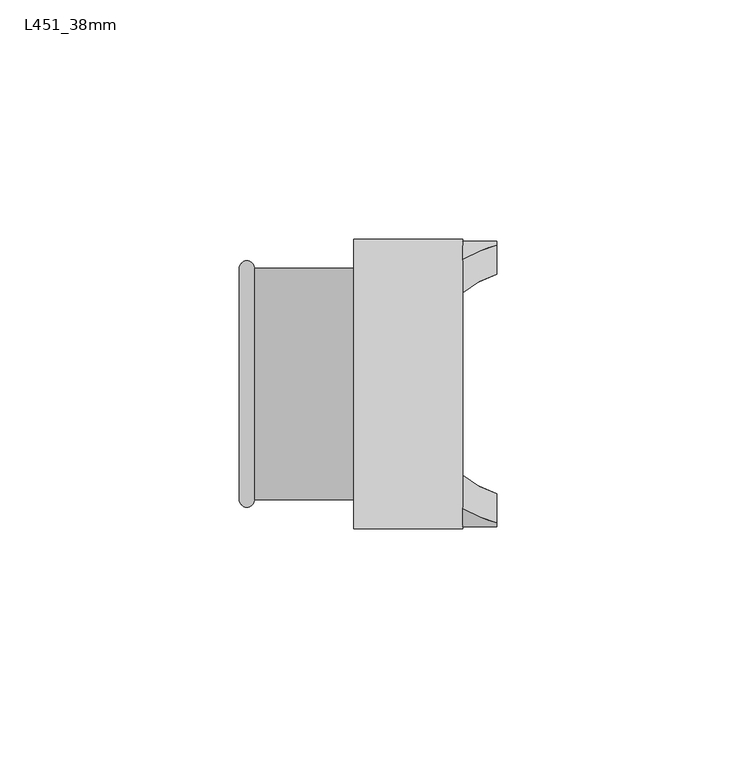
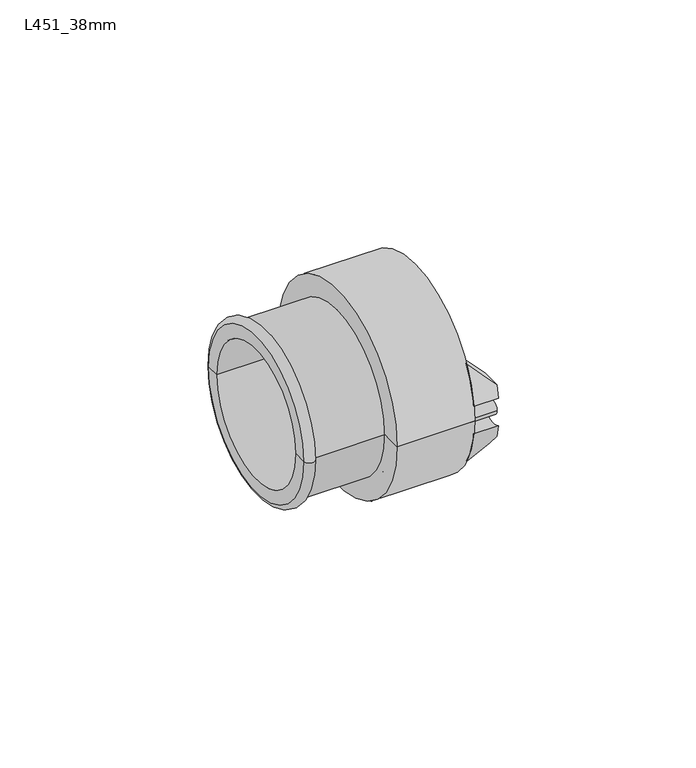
"""IFC4 building model written with IfcOpenShell, lengths in millimetres: pipe fitting geometry, Durapipe_PipeFitting_VulcatheneEnfusion_GlassAdaptor_L45 : L451_38mm."""

from ifc_helpers import new_model, si_unit, point, frame, frame_2d, origin, place, context, project, spatial, polyline, circle_curve, ellipse_curve, trimmed, segment, composite_curve, outline, extrude, source, transform, mapped, element, save
from ifc_brep_helpers import plane_surface, cylinder_surface, revolved_surface, advanced_brep


def l451_38mm_612f0f0e(model_context):
    return source(origin(), model_context, "Body", "SolidModel", [
        advanced_brep(
        [(30.45, -23.9950368, -3.8377351), (30.45, -29.7950368, -4.2738489), (30.45, -29.0338837, -7.94), (30.45, -22.9662013, -7.94), (23.35, -26.0961683, -15.0), (23.35, -29.7950368, -4.2738489), (23.35, -23.9950368, -3.8377351), (23.35, -19.1177928, -15.0)],
        [
            (0, 1, circle_curve(frame((30.45, -27.2, 0.0), z_axis=(-1.0, 0.0, 0.0), x_axis=(0.0, 1.0, 0.0)), 5.0)),
            (1, 2, circle_curve(frame((30.45, 0.0, 0.0), z_axis=(1.0, 0.0, 0.0), x_axis=(0.0, 1.0, 0.0)), 30.1)),
            (2, 3),
            (3, 0, circle_curve(frame((30.45, 0.0, 0.0), z_axis=(-1.0, 0.0, 0.0), x_axis=(0.0, 1.0, 0.0)), 24.3)),
            (4, 5, circle_curve(frame((23.35, 0.0, 0.0), z_axis=(-1.0, 0.0, 0.0), x_axis=(0.0, 1.0, 0.0)), 30.1)),
            (5, 6, circle_curve(frame((23.35, -27.2, 0.0), z_axis=(1.0, 0.0, 0.0), x_axis=(0.0, 1.0, 0.0)), 5.0)),
            (6, 7, circle_curve(frame((23.35, 0.0, 0.0), z_axis=(1.0, 0.0, 0.0), x_axis=(0.0, 1.0, 0.0)), 24.3)),
            (7, 4),
            (6, 0),
            (3, 7, ellipse_curve(frame((38.4349858, 0.0, 0.0), z_axis=(0.705106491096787, 0.0, -0.7091014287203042), x_axis=(-0.7091014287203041, 0.0, -0.705106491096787)), 34.4628794, 24.3)),
            (4, 2, ellipse_curve(frame((38.4349858, 0.0, 0.0), z_axis=(-0.705106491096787, 0.0, 0.7091014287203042), x_axis=(0.7091014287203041, 0.0, 0.705106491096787)), 42.6885873, 30.1)),
            (1, 5),
        ],
        [
            plane_surface(frame((30.45, -26.0961683, -15.0), z_axis=(1.0, 0.0, 0.0), x_axis=(0.0, 1.0, 0.0))),
            plane_surface(frame((23.35, -26.0961683, -15.0), z_axis=(-1.0, 0.0, 0.0), x_axis=(0.0, -1.0, 0.0))),
            revolved_surface(polyline([(13.997308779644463, 24.3, 0.0), (62.872662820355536, 24.3, 0.0)]), (23.35, 0.0, 0.0), (-1.0, 0.0, 0.0)),
            cylinder_surface(frame((23.35, 0.0, 0.0), z_axis=(1.0, 0.0, 0.0), x_axis=(0.0, 1.0, 0.0)), 30.1),
            revolved_surface(polyline([(30.45, -22.2, 0.0), (23.35, -22.2, 0.0)]), (23.35, -27.2, 0.0), (1.0, 0.0, 0.0)),
            plane_surface(frame((23.35, 30.1, -15.0), z_axis=(0.705106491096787, 0.0, -0.7091014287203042), x_axis=(0.0, -1.0, 0.0))),
        ],
        [
            (0, [[1, 2, 3, 4]]),
            (1, [[5, 6, 7, 8]]),
            (2, [[-7, 9, -4, 10]]),
            (3, [[-5, 11, -2, 12]]),
            (4, [[-1, -9, -6, -12]]),
            (5, [[-3, -11, -8, -10]]),
        ],
    ),
        advanced_brep(
        [(30.45, -29.7950368, 4.2738489), (30.45, -23.9950368, 3.8377351), (30.45, -22.9662013, 7.94), (30.45, -29.0338837, 7.94), (23.35, -29.7950368, 4.2738489), (23.35, -26.0961683, 15.0), (23.35, -19.1177928, 15.0), (23.35, -23.9950368, 3.8377351)],
        [
            (0, 1, circle_curve(frame((30.45, -27.2, 0.0), z_axis=(-1.0, 0.0, 0.0), x_axis=(0.0, 1.0, 0.0)), 5.0)),
            (1, 2, circle_curve(frame((30.45, 0.0, 0.0), z_axis=(-1.0, 0.0, 0.0), x_axis=(0.0, 1.0, 0.0)), 24.3)),
            (2, 3),
            (3, 0, circle_curve(frame((30.45, 0.0, 0.0), z_axis=(1.0, 0.0, 0.0), x_axis=(0.0, 1.0, 0.0)), 30.1)),
            (4, 5, circle_curve(frame((23.35, 0.0, 0.0), z_axis=(-1.0, 0.0, 0.0), x_axis=(0.0, 1.0, 0.0)), 30.1)),
            (5, 6),
            (6, 7, circle_curve(frame((23.35, 0.0, 0.0), z_axis=(1.0, 0.0, 0.0), x_axis=(0.0, 1.0, 0.0)), 24.3)),
            (7, 4, circle_curve(frame((23.35, -27.2, 0.0), z_axis=(1.0, 0.0, 0.0), x_axis=(0.0, 1.0, 0.0)), 5.0)),
            (6, 2, ellipse_curve(frame((38.4349858, 0.0, 0.0), z_axis=(0.7051064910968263, 0.0, 0.7091014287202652), x_axis=(-0.7091014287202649, 0.0, 0.7051064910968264)), 34.4628794, 24.3)),
            (1, 7),
            (4, 0),
            (3, 5, ellipse_curve(frame((38.4349858, 0.0, 0.0), z_axis=(-0.7051064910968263, 0.0, -0.7091014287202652), x_axis=(0.7091014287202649, 0.0, -0.7051064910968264)), 42.6885873, 30.1)),
        ],
        [
            plane_surface(frame((30.45, -26.0961683, -15.0), z_axis=(1.0, 0.0, 0.0), x_axis=(0.0, 1.0, 0.0))),
            plane_surface(frame((23.35, -26.0961683, -15.0), z_axis=(-1.0, 0.0, 0.0), x_axis=(0.0, -1.0, 0.0))),
            revolved_surface(polyline([(13.997308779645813, 24.3, 0.0), (62.872662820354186, 24.3, 0.0)]), (23.35, 0.0, 0.0), (-1.0, 0.0, 0.0)),
            cylinder_surface(frame((23.35, 0.0, 0.0), z_axis=(1.0, 0.0, 0.0), x_axis=(0.0, 1.0, 0.0)), 30.1),
            revolved_surface(polyline([(30.45, -22.2, 0.0), (23.35, -22.2, 0.0)]), (23.35, -27.2, 0.0), (1.0, 0.0, 0.0)),
            plane_surface(frame((30.45, 30.1, 7.94), z_axis=(0.7051064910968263, 0.0, 0.7091014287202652), x_axis=(0.0, -1.0, 0.0))),
        ],
        [
            (0, [[1, 2, 3, 4]]),
            (1, [[5, 6, 7, 8]]),
            (2, [[-7, 9, -2, 10]]),
            (3, [[-5, 11, -4, 12]]),
            (4, [[-1, -11, -8, -10]]),
            (5, [[-3, -9, -6, -12]]),
        ],
    ),
        advanced_brep(
        [(30.45, 29.7950368, -4.2738489), (30.45, 23.9950368, -3.8377351), (30.45, 22.9662013, -7.94), (30.45, 29.0338837, -7.94), (23.35, 29.7950368, -4.2738489), (23.35, 26.0961683, -15.0), (23.35, 19.1177928, -15.0), (23.35, 23.9950368, -3.8377351)],
        [
            (0, 1, circle_curve(frame((30.45, 27.2, 0.0), z_axis=(-1.0, 0.0, 0.0), x_axis=(0.0, 1.0, 0.0)), 5.0)),
            (1, 2, circle_curve(frame((30.45, 0.0, 0.0), z_axis=(-1.0, 0.0, 0.0), x_axis=(0.0, 1.0, 0.0)), 24.3)),
            (2, 3),
            (3, 0, circle_curve(frame((30.45, 0.0, 0.0), z_axis=(1.0, 0.0, 0.0), x_axis=(0.0, 1.0, 0.0)), 30.1)),
            (4, 5, circle_curve(frame((23.35, 0.0, 0.0), z_axis=(-1.0, 0.0, 0.0), x_axis=(0.0, 1.0, 0.0)), 30.1)),
            (5, 6),
            (6, 7, circle_curve(frame((23.35, 0.0, 0.0), z_axis=(1.0, 0.0, 0.0), x_axis=(0.0, 1.0, 0.0)), 24.3)),
            (7, 4, circle_curve(frame((23.35, 27.2, 0.0), z_axis=(1.0, 0.0, 0.0), x_axis=(0.0, 1.0, 0.0)), 5.0)),
            (6, 2, ellipse_curve(frame((38.4349858, 0.0, 0.0), z_axis=(0.705106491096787, 0.0, -0.7091014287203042), x_axis=(-0.7091014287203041, 0.0, -0.705106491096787)), 34.4628794, 24.3)),
            (1, 7),
            (4, 0),
            (3, 5, ellipse_curve(frame((38.4349858, 0.0, 0.0), z_axis=(-0.705106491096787, 0.0, 0.7091014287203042), x_axis=(0.7091014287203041, 0.0, 0.705106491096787)), 42.6885873, 30.1)),
        ],
        [
            plane_surface(frame((30.45, -26.0961683, -15.0), z_axis=(1.0, 0.0, 0.0), x_axis=(0.0, 1.0, 0.0))),
            plane_surface(frame((23.35, -26.0961683, -15.0), z_axis=(-1.0, 0.0, 0.0), x_axis=(0.0, -1.0, 0.0))),
            revolved_surface(polyline([(13.997308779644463, 24.3, 0.0), (62.872662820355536, 24.3, 0.0)]), (23.35, 0.0, 0.0), (-1.0, 0.0, 0.0)),
            cylinder_surface(frame((23.35, 0.0, 0.0), z_axis=(1.0, 0.0, 0.0), x_axis=(0.0, 1.0, 0.0)), 30.1),
            revolved_surface(polyline([(30.45, 32.2, 0.0), (23.35, 32.2, 0.0)]), (23.35, 27.2, 0.0), (1.0, 0.0, 0.0)),
            plane_surface(frame((23.35, 30.1, -15.0), z_axis=(0.705106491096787, 0.0, -0.7091014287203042), x_axis=(0.0, -1.0, 0.0))),
        ],
        [
            (0, [[1, 2, 3, 4]]),
            (1, [[5, 6, 7, 8]]),
            (2, [[-7, 9, -2, 10]]),
            (3, [[-5, 11, -4, 12]]),
            (4, [[-1, -11, -8, -10]]),
            (5, [[-3, -9, -6, -12]]),
        ],
    ),
        advanced_brep(
        [(30.45, 23.9950368, 3.8377351), (30.45, 29.7950368, 4.2738489), (30.45, 29.0338837, 7.94), (30.45, 22.9662013, 7.94), (23.35, 26.0961683, 15.0), (23.35, 29.7950368, 4.2738489), (23.35, 23.9950368, 3.8377351), (23.35, 19.1177928, 15.0)],
        [
            (0, 1, circle_curve(frame((30.45, 27.2, 0.0), z_axis=(-1.0, 0.0, 0.0), x_axis=(0.0, 1.0, 0.0)), 5.0)),
            (1, 2, circle_curve(frame((30.45, 0.0, 0.0), z_axis=(1.0, 0.0, 0.0), x_axis=(0.0, 1.0, 0.0)), 30.1)),
            (2, 3),
            (3, 0, circle_curve(frame((30.45, 0.0, 0.0), z_axis=(-1.0, 0.0, 0.0), x_axis=(0.0, 1.0, 0.0)), 24.3)),
            (4, 5, circle_curve(frame((23.35, 0.0, 0.0), z_axis=(-1.0, 0.0, 0.0), x_axis=(0.0, 1.0, 0.0)), 30.1)),
            (5, 6, circle_curve(frame((23.35, 27.2, 0.0), z_axis=(1.0, 0.0, 0.0), x_axis=(0.0, 1.0, 0.0)), 5.0)),
            (6, 7, circle_curve(frame((23.35, 0.0, 0.0), z_axis=(1.0, 0.0, 0.0), x_axis=(0.0, 1.0, 0.0)), 24.3)),
            (7, 4),
            (6, 0),
            (3, 7, ellipse_curve(frame((38.4349858, 0.0, 0.0), z_axis=(0.7051064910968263, 0.0, 0.7091014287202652), x_axis=(-0.7091014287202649, 0.0, 0.7051064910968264)), 34.4628794, 24.3)),
            (4, 2, ellipse_curve(frame((38.4349858, 0.0, 0.0), z_axis=(-0.7051064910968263, 0.0, -0.7091014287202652), x_axis=(0.7091014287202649, 0.0, -0.7051064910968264)), 42.6885873, 30.1)),
            (1, 5),
        ],
        [
            plane_surface(frame((30.45, -26.0961683, -15.0), z_axis=(1.0, 0.0, 0.0), x_axis=(0.0, 1.0, 0.0))),
            plane_surface(frame((23.35, -26.0961683, -15.0), z_axis=(-1.0, 0.0, 0.0), x_axis=(0.0, -1.0, 0.0))),
            revolved_surface(polyline([(13.997308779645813, 24.3, 0.0), (62.872662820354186, 24.3, 0.0)]), (23.35, 0.0, 0.0), (-1.0, 0.0, 0.0)),
            cylinder_surface(frame((23.35, 0.0, 0.0), z_axis=(1.0, 0.0, 0.0), x_axis=(0.0, 1.0, 0.0)), 30.1),
            revolved_surface(polyline([(30.45, 32.2, 0.0), (23.35, 32.2, 0.0)]), (23.35, 27.2, 0.0), (1.0, 0.0, 0.0)),
            plane_surface(frame((30.45, 30.1, 7.94), z_axis=(0.7051064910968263, 0.0, 0.7091014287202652), x_axis=(0.0, -1.0, 0.0))),
        ],
        [
            (0, [[1, 2, 3, 4]]),
            (1, [[5, 6, 7, 8]]),
            (2, [[-7, 9, -4, 10]]),
            (3, [[-5, 11, -2, 12]]),
            (4, [[-1, -9, -6, -12]]),
            (5, [[-3, -11, -8, -10]]),
        ],
    ),
        extrude(outline(composite_curve([segment(trimmed(circle_curve(frame_2d((-27.2, 0.0)), 2.0), [point((-29.2, 0.0))], [point((-25.2, 0.0))], False, "CARTESIAN"), True, "CONTINUOUS"), segment(trimmed(circle_curve(frame_2d((-27.2, 0.0)), 2.0), [point((-25.2, 0.0))], [point((-29.2, 0.0))], False, "CARTESIAN"), True, "CONTINUOUS")], self_intersect=False)), frame((23.35, 0.0, 0.0), z_axis=(1.0, 0.0, 0.0), x_axis=(0.0, 1.0, 0.0)), (0.0, 0.0, 1.0), 7.1),
        extrude(outline(composite_curve([segment(trimmed(circle_curve(frame_2d((27.2, 0.0)), 2.0), [point((25.2, 0.0))], [point((29.2, 0.0))], False, "CARTESIAN"), True, "CONTINUOUS"), segment(trimmed(circle_curve(frame_2d((27.2, 0.0)), 2.0), [point((29.2, 0.0))], [point((25.2, 0.0))], False, "CARTESIAN"), True, "CONTINUOUS")], self_intersect=False)), frame((23.35, 0.0, 0.0), z_axis=(1.0, 0.0, 0.0), x_axis=(0.0, 1.0, 0.0)), (0.0, 0.0, 1.0), 7.1),
        advanced_brep(
        [(4.25, -20.2, 0.0), (4.25, 20.2, 0.0), (4.25, 24.15, 0.0), (4.25, -24.15, 0.0), (0.55, -20.2, 0.0), (0.55, 20.2, 0.0), (0.55, -30.25, 0.0), (0.55, 30.25, 0.0), (23.35, -30.25, 0.0), (23.35, 30.25, 0.0), (23.35, -24.15, 0.0), (23.35, 24.15, 0.0)],
        [
            (0, 1, circle_curve(frame((4.25, 0.0, 0.0), z_axis=(-1.0, 0.0, 0.0), x_axis=(0.0, 1.0, 0.0)), 20.2)),
            (1, 2),
            (2, 3, circle_curve(frame((4.25, 0.0, 0.0), z_axis=(1.0, 0.0, 0.0), x_axis=(0.0, 1.0, 0.0)), 24.15)),
            (3, 0),
            (1, 0, circle_curve(frame((4.25, 0.0, 0.0), z_axis=(-1.0, 0.0, 0.0), x_axis=(0.0, 1.0, 0.0)), 20.2)),
            (3, 2, circle_curve(frame((4.25, 0.0, 0.0), z_axis=(1.0, 0.0, 0.0), x_axis=(0.0, 1.0, 0.0)), 24.15)),
            (4, 5, circle_curve(frame((0.55, 0.0, 0.0), z_axis=(-1.0, 0.0, 0.0), x_axis=(0.0, 1.0, 0.0)), 20.2)),
            (5, 1),
            (0, 4),
            (5, 4, circle_curve(frame((0.55, 0.0, 0.0), z_axis=(-1.0, 0.0, 0.0), x_axis=(0.0, 1.0, 0.0)), 20.2)),
            (6, 7, circle_curve(frame((0.55, 0.0, 0.0), z_axis=(-1.0, 0.0, 0.0), x_axis=(0.0, 1.0, 0.0)), 30.25)),
            (7, 5),
            (4, 6),
            (7, 6, circle_curve(frame((0.55, 0.0, 0.0), z_axis=(-1.0, 0.0, 0.0), x_axis=(0.0, 1.0, 0.0)), 30.25)),
            (8, 9, circle_curve(frame((23.35, 0.0, 0.0), z_axis=(-1.0, 0.0, 0.0), x_axis=(0.0, 1.0, 0.0)), 30.25)),
            (9, 7),
            (6, 8),
            (9, 8, circle_curve(frame((23.35, 0.0, 0.0), z_axis=(-1.0, 0.0, 0.0), x_axis=(0.0, 1.0, 0.0)), 30.25)),
            (10, 11, circle_curve(frame((23.35, 0.0, 0.0), z_axis=(-1.0, 0.0, 0.0), x_axis=(0.0, 1.0, 0.0)), 24.15)),
            (11, 9),
            (8, 10),
            (11, 10, circle_curve(frame((23.35, 0.0, 0.0), z_axis=(-1.0, 0.0, 0.0), x_axis=(0.0, 1.0, 0.0)), 24.15)),
            (2, 11),
            (10, 3),
        ],
        [
            plane_surface(frame((4.25, 0.0, 0.0), z_axis=(1.0, 0.0, 0.0), x_axis=(0.0, 1.0, 0.0))),
            revolved_surface(polyline([(4.25, 20.2, 0.0), (0.5500000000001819, 20.2, 0.0)]), (2537.3326241, 0.0, 0.0), (1.0, 0.0, 0.0)),
            plane_surface(frame((0.55, 0.0, 0.0), z_axis=(-1.0, 0.0, 0.0), x_axis=(0.0, 1.0, 0.0))),
            cylinder_surface(frame((2537.3326241, 0.0, 0.0), z_axis=(1.0, 0.0, 0.0), x_axis=(0.0, 1.0, 0.0)), 30.25),
            plane_surface(frame((23.35, 0.0, 0.0), z_axis=(1.0, 0.0, 0.0), x_axis=(0.0, 1.0, 0.0))),
            revolved_surface(polyline([(23.34999999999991, 24.15, 0.0), (4.25, 24.15, 0.0)]), (2537.3326241, 0.0, 0.0), (1.0, 0.0, 0.0)),
        ],
        [
            (0, [[1, 2, 3, 4]]),
            (0, [[5, -4, 6, -2]]),
            (1, [[7, 8, -1, 9]]),
            (1, [[10, -9, -5, -8]]),
            (2, [[11, 12, -7, 13]]),
            (2, [[14, -13, -10, -12]]),
            (3, [[15, 16, -11, 17]]),
            (3, [[18, -17, -14, -16]]),
            (4, [[19, 20, -15, 21]]),
            (4, [[22, -21, -18, -20]]),
            (5, [[-3, 23, -19, 24]]),
            (5, [[-6, -24, -22, -23]]),
        ],
    ),
        advanced_brep(
        [(4.25, -24.15, 0.0), (4.25, 24.15, 0.0), (4.25, 20.2, 0.0), (4.25, -20.2, 0.0), (-20.15, -24.15, 0.0), (-20.15, 24.15, 0.0), (-23.35, -20.2, 0.0), (-23.35, 20.2, 0.0), (-23.35, 24.15, 0.0), (-23.35, -24.15, 0.0)],
        [
            (0, 1, circle_curve(frame((4.25, 0.0, 0.0), z_axis=(1.0, 0.0, 0.0), x_axis=(0.0, 1.0, 0.0)), 24.15)),
            (1, 2),
            (2, 3, circle_curve(frame((4.25, 0.0, 0.0), z_axis=(-1.0, 0.0, 0.0), x_axis=(0.0, 1.0, 0.0)), 20.2)),
            (3, 0),
            (1, 0, circle_curve(frame((4.25, 0.0, 0.0), z_axis=(1.0, 0.0, 0.0), x_axis=(0.0, 1.0, 0.0)), 24.15)),
            (3, 2, circle_curve(frame((4.25, 0.0, 0.0), z_axis=(-1.0, 0.0, 0.0), x_axis=(0.0, 1.0, 0.0)), 20.2)),
            (4, 5, circle_curve(frame((-20.15, 0.0, 0.0), z_axis=(1.0, 0.0, 0.0), x_axis=(0.0, 1.0, 0.0)), 24.15)),
            (5, 1),
            (0, 4),
            (5, 4, circle_curve(frame((-20.15, 0.0, 0.0), z_axis=(1.0, 0.0, 0.0), x_axis=(0.0, 1.0, 0.0)), 24.15)),
            (6, 7, circle_curve(frame((-23.35, 0.0, 0.0), z_axis=(1.0, 0.0, 0.0), x_axis=(0.0, 1.0, 0.0)), 20.2)),
            (7, 8),
            (8, 9, circle_curve(frame((-23.35, 0.0, 0.0), z_axis=(-1.0, 0.0, 0.0), x_axis=(0.0, 1.0, 0.0)), 24.15)),
            (9, 6),
            (7, 6, circle_curve(frame((-23.35, 0.0, 0.0), z_axis=(1.0, 0.0, 0.0), x_axis=(0.0, 1.0, 0.0)), 20.2)),
            (9, 8, circle_curve(frame((-23.35, 0.0, 0.0), z_axis=(-1.0, 0.0, 0.0), x_axis=(0.0, 1.0, 0.0)), 24.15)),
            (2, 7),
            (6, 3),
            (8, 5, circle_curve(frame((-21.75, 24.15, 0.0), z_axis=(0.0, 0.0, -1.0), x_axis=(1.0, 0.0, 0.0)), 1.6)),
            (4, 9, circle_curve(frame((-21.75, -24.15, 0.0), z_axis=(0.0, 0.0, -1.0), x_axis=(1.0, 0.0, 0.0)), 1.6)),
        ],
        [
            plane_surface(frame((4.25, 0.0, 0.0), z_axis=(1.0, 0.0, 0.0), x_axis=(0.0, 1.0, 0.0))),
            cylinder_surface(frame((-11.3648603, 0.0, 0.0), z_axis=(-1.0, 0.0, 0.0), x_axis=(0.0, 1.0, 0.0)), 24.15),
            plane_surface(frame((-23.35, 0.0, 0.0), z_axis=(-1.0, 0.0, 0.0), x_axis=(0.0, 1.0, 0.0))),
            revolved_surface(polyline([(-23.35, 20.2, 0.0), (4.25, 20.2, 0.0)]), (-11.3648603, 0.0, 0.0), (-1.0, 0.0, 0.0)),
            revolved_surface(trimmed(ellipse_curve(frame((-21.75, 24.15, 0.0), z_axis=(0.0, 0.0, 1.0), x_axis=(1.0, 0.0, 0.0)), 1.6, 1.6), [point((-20.15, 24.15, 0.0))], [point((-23.35, 24.15, 0.0))], True, "CARTESIAN"), (-11.3648603, 0.0, 0.0), (-1.0, 0.0, 0.0)),
        ],
        [
            (0, [[1, 2, 3, 4]]),
            (0, [[5, -4, 6, -2]]),
            (1, [[7, 8, -1, 9]]),
            (1, [[10, -9, -5, -8]]),
            (2, [[11, 12, 13, 14]]),
            (2, [[15, -14, 16, -12]]),
            (3, [[-3, 17, -11, 18]]),
            (3, [[-6, -18, -15, -17]]),
            (4, [[-13, 19, -7, 20]]),
            (4, [[-16, -20, -10, -19]]),
        ],
    ),
    ])


if __name__ == "__main__":
    model = new_model("IFC4")
    model_context = context("Model", 3, world=origin())
    ifc_project = project(units=[si_unit("LENGTHUNIT", "METRE", prefix="MILLI")], contexts=[model_context])
    site = spatial("IfcSite", under=ifc_project)
    building = spatial("IfcBuilding", under=site)
    placement = place(None, origin())
    l451_38mm_shape = l451_38mm_612f0f0e(model_context)
    element("IfcPipeFitting", 1, ObjectType="Durapipe_PipeFitting_VulcatheneEnfusion_GlassAdaptor_L45 : L451_38mm", at=placement, inside=building, context=model_context, shape_type="MappedRepresentation", body=[
        mapped(l451_38mm_shape, transform((0.0, 0.0, 0.0), x_axis=(1.0, 0.0, 0.0), y_axis=(0.0, 1.0, 0.0), z_axis=(0.0, 0.0, 1.0))),
    ])
    save(model, "model.ifc")
